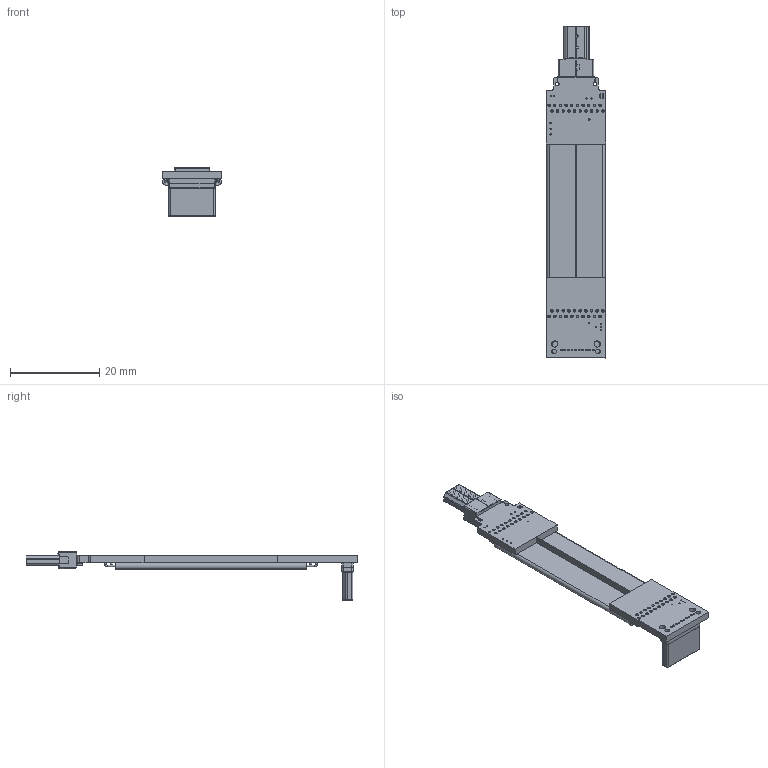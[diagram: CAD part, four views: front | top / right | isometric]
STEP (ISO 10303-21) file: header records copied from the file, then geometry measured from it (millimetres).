
FILE_DESCRIPTION(('Open CASCADE Model'),'2;1');
FILE_NAME('Open CASCADE Shape Model','2022-06-09T23:47:47',('Author'),( 'Open CASCADE'),'Open CASCADE STEP processor 6.8','Open CASCADE 6.8' ,'Unknown');
FILE_SCHEMA(('AUTOMOTIVE_DESIGN { 1 0 10303 214 1 1 1 1 }'));
Length unit declared in the file: millimetre
Products named in the file (71): PCB; Board; Open CASCADE STEP translator 6.8 9.1.1; _1; HDMI_MICRO_D(M)_??(2); Open CASCADE STEP translator 6.8 9.3; HDMI_type_C1; miniHDMI-p_RGB10275833; Free-Models; cable20-A1A1
Assembly tree (71 placements, depth 3):
  PCB
    Board
      Open CASCADE STEP translator 6.8 9.1.1
    _1
      HDMI_MICRO_D(M)_??(2)
      HDMI_MICRO_D(M)_??(2)
      HDMI_MICRO_D(M)_??(2)
      HDMI_MICRO_D(M)_??(2)
      HDMI_MICRO_D(M)_??(2)
      HDMI_MICRO_D(M)_??(2)
      HDMI_MICRO_D(M)_??(2)
      HDMI_MICRO_D(M)_??(2)
      HDMI_MICRO_D(M)_??(2)
      HDMI_MICRO_D(M)_??(2)
      HDMI_MICRO_D(M)_??(2)
      HDMI_MICRO_D(M)_??(2)
      HDMI_MICRO_D(M)_??(2)
      HDMI_MICRO_D(M)_??(2)
      HDMI_MICRO_D(M)_??(2)
      HDMI_MICRO_D(M)_??(2)
      HDMI_MICRO_D(M)_??(2)
      HDMI_MICRO_D(M)_??(2)
      HDMI_MICRO_D(M)_??(2)
      HDMI_MICRO_D(M)_??(2)
      HDMI_MICRO_D(M)_??(2)
      HDMI_MICRO_D(M)_??(2)
    Open CASCADE STEP translator 6.8 9.3
      HDMI_type_C1
      miniHDMI-p_RGB10275833  x2
    Free-Models
      cable20-A1A1
      cable20-A1A1
      cable20-A1A1
      cable20-A1A1
      cable20-A1A1
      cable20-A1A1
      cable20-A1A1
      cable20-A1A1
      cable20-A1A1
      cable20-A1A1
      cable20-A1A1
      cable20-A1A1
      cable20-A1A1
      cable20-A1A1
      cable20-A1A1
      cable20-A1A1
      cable20-A1A1
      cable20-A1A1
      cable20-A1A1
      cable20-A1A1
      cable20-A1A1
      cable20-A1A1
      cable20-A1A1
      cable20-A1A1
      cable20-A1A1
      cable20-A1A1
      cable20-A1A1
      cable20-A1A1
      cable20-A1A1
      cable20-A1A1
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Bounding box: 13.36 x 74.47 x 10.9 mm (x, y, z)
Volume: 1691 mm3; surface area: 5137.6 mm2
Topology: 67 solids, 67 shells, 904 faces, 2214 edges, 1444 vertices
Faces by surface type: plane 576, cylinder 278, torus 46, extrusion 4
Full cylindrical faces by diameter (mm): 0.254 x5, 0.304 x12, 0.4 x110, 0.55 x20, 0.6 x20, 0.8 x2, 1.1 x2, 1.4 x2
Entity records: 35173 total; most frequent: CARTESIAN_POINT 4960, DIRECTION 4530, ORIENTED_EDGE 4380, EDGE_CURVE 2190, AXIS2_PLACEMENT_3D 1522, VECTOR 1486, LINE 1482, VERTEX_POINT 1428
